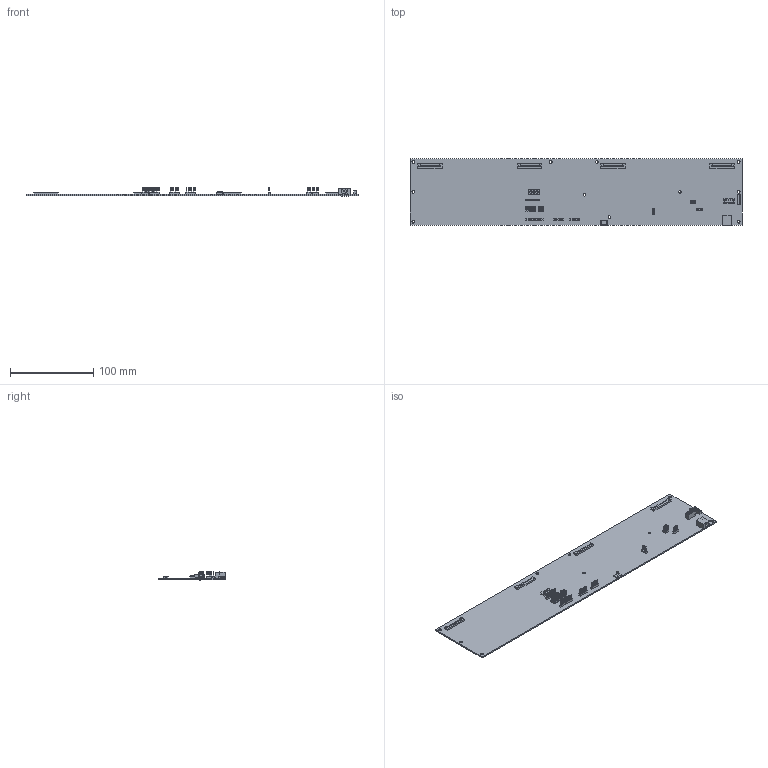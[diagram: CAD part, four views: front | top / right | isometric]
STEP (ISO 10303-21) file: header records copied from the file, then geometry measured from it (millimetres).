
FILE_DESCRIPTION (( 'STEP AP203' ), '1' );
FILE_NAME ('Assy PCB EPM-100V2 41602392X-3 220614.STEP', '2022-06-15T17:38:45', ( '' ), ( '' ), 'SwSTEP 2.0', 'SolidWorks 2021', '' );
FILE_SCHEMA (( 'CONFIG_CONTROL_DESIGN' ));
Length unit declared in the file: inch
Products named in the file (13): 210021404-3 Header_2.0_4X1; 210094806-5 Conn 1.25 Str 8P; PCB EPM-100V2 416024120-3 220614; 210021403-3 Header_2.0_3X1; 212040520-3 Micro USB AB Type; 210010004-3 2.5-F-04p; 196002460-3 SW Tach HCH STS-043-A; 210021408-3 Header_2.0_8X1; 210020001-3 Conn Hdr Str 1P 2.54mm; Assy PCB EPM-100V2 41602392X-3 220614; 210402530-5 Conn DC Pwr Jack 2.5mm; 210021406-3 Header_2.0_6X1; 216060550-3 Conn 50P RA FPC Starconn
Assembly tree (30 placements, depth 2):
  Assy PCB EPM-100V2 41602392X-3 220614
    PCB EPM-100V2 416024120-3 220614
    196002460-3 SW Tach HCH STS-043-A  x2
    210010004-3 2.5-F-04p
    210021403-3 Header_2.0_3X1  x10
    212040520-3 Micro USB AB Type
    210021404-3 Header_2.0_4X1  x2
    210021406-3 Header_2.0_6X1  x3
    210021408-3 Header_2.0_8X1
    210020001-3 Conn Hdr Str 1P 2.54mm  x3
    210094806-5 Conn 1.25 Str 8P
    210402530-5 Conn DC Pwr Jack 2.5mm
    216060550-3 Conn 50P RA FPC Starconn  x4
Bounding box: 400 x 80.3 x 11.78 mm (x, y, z)
Volume: 53407.9 mm3; surface area: 71923.5 mm2
Topology: 30 solids, 30 shells, 897 faces, 2101 edges, 1398 vertices
Faces by surface type: plane 715, cylinder 182
Entity records: 15170 total; most frequent: CARTESIAN_POINT 2289, DIRECTION 2287, ORIENTED_EDGE 2174, EDGE_CURVE 1087, VECTOR 847, LINE 847, VERTEX_POINT 722, AXIS2_PLACEMENT_3D 720
